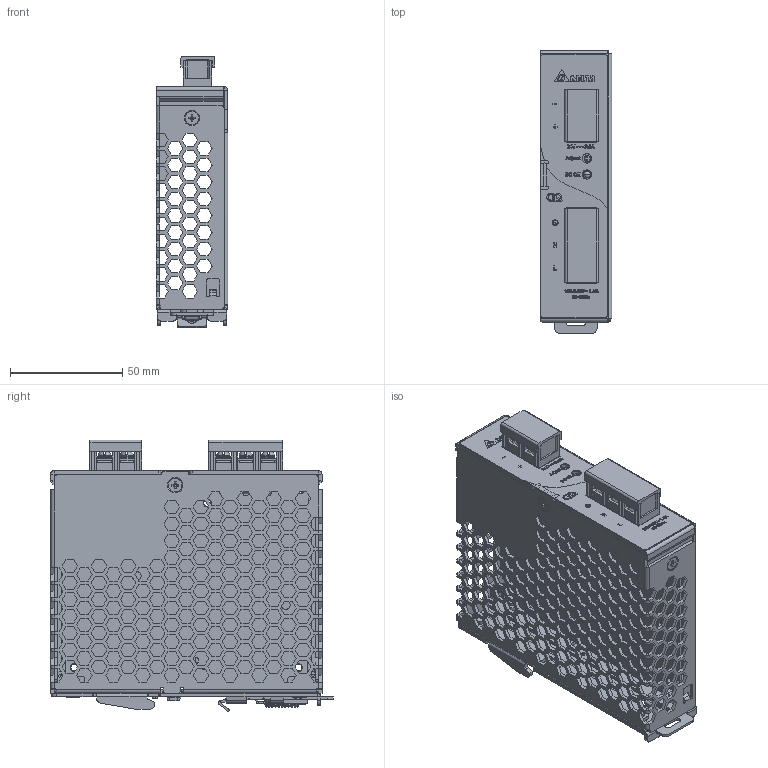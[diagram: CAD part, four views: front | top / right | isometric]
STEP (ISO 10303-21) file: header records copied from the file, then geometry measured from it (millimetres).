
FILE_DESCRIPTION((''),'2;1');
FILE_NAME('DRP024V060W1AA_ASM','2012-04-18T',('Manop.Pr'),(''),'PRO/ENGINEER BY PARAMETRIC TECHNOLOGY CORPORATION, 2010180','PRO/ENGINEER BY PARAMETRIC TECHNOLOGY CORPORATION, 2010180','');
FILE_SCHEMA(('CONFIG_CONTROL_DESIGN','SHAPE_APPEARANCE_LAYERS_GROUPS'));
Products named in the file (31): 331067910101; 331067910101_A_STUD_6-32; 331067910101_ASM; 331067890101; 326303460202; 3268209100; 3202315200; 2958030202_PWB; 3073044246_A_BODY; 3073044246_A_TERMINAL; 3073044246_A_PIN; 3073044246_A_SCREW; 3073044246_A_COVER; 3073044246_ASM; 3073044346_A_BODY; 3073044346_A_TERMINAL; 3073044346_A_PIN; 3073044346_A_SCREW; 3073044346_A_COVER; 3073044346_ASM; EE_LED350_A_HOUSE; EE_LED350_A_LITEON; EE_LED350_ASM; EE_VR-ADJ; ASSY_PWB_ASM; 331067900101; 346008810000; 346202620000; ASSY_LATCH_31X120_ASM; 3103000600; DRP024V060W1AA_ASM
Assembly tree (48 placements, depth 4):
  DRP024V060W1AA_ASM
    331067910101_ASM
      331067910101
      331067910101_A_STUD_6-32  x5
    331067890101
    326303460202
    3268209100
    3202315200
    ASSY_PWB_ASM
      2958030202_PWB
      3073044246_ASM
        3073044246_A_BODY
        3073044246_A_TERMINAL  x2
        3073044246_A_PIN  x2
        3073044246_A_SCREW  x2
        3073044246_A_COVER
      3073044346_ASM
        3073044346_A_BODY
        3073044346_A_TERMINAL  x3
        3073044346_A_PIN  x2
        3073044346_A_SCREW  x3
        3073044346_A_COVER
      EE_LED350_ASM
        EE_LED350_A_HOUSE
        EE_LED350_A_LITEON
      EE_VR-ADJ
    ASSY_LATCH_31X120_ASM
      331067900101
      346008810000
      346202620000
    3103000600  x7
Bounding box: 32.1 x 126 x 121.14 mm (x, y, z)
Volume: 76652.8 mm3; surface area: 129491.9 mm2
Topology: 43 solids, 43 shells, 5388 faces, 14325 edges, 9100 vertices
Faces by surface type: plane 4090, cylinder 576, extrusion 448, bspline 146, cone 100, torus 26, sphere 2
Entity records: 183839 total; most frequent: CARTESIAN_POINT 35647, ORIENTED_EDGE 24352, DIRECTION 20846, EDGE_CURVE 12176, PRESENTATION_STYLE_ASSIGNMENT 11313, STYLED_ITEM 11233, CURVE_STYLE 11206, VECTOR 10548
